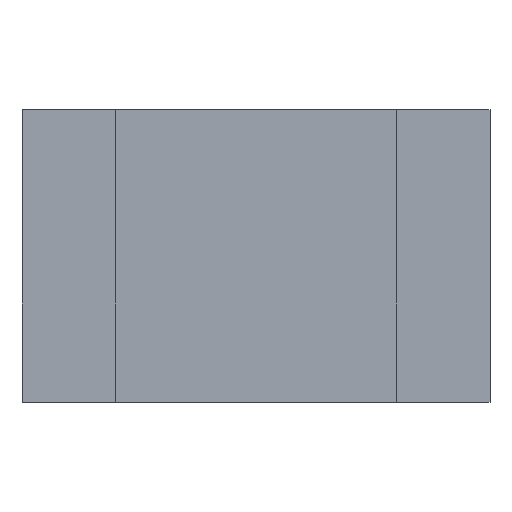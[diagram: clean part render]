
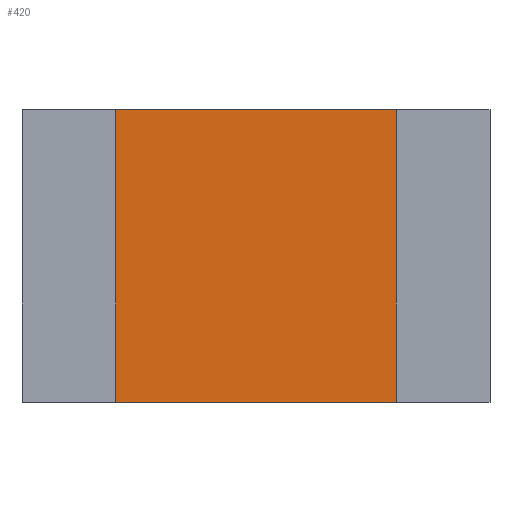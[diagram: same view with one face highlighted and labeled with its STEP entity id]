
A CAD part, top view. The second image highlights one B-rep face of the part: STEP entity #420.
In plain terms, the highlighted planar face has unit normal (0, 0, 1).
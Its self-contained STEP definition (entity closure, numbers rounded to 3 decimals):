
#420=ADVANCED_FACE('',(#817),#819,.F.);
#817=FACE_BOUND('',#818,.T.);
#818=EDGE_LOOP('',(#1101,#1102,#1103,#1104));
#819=PLANE('',#820);
#820=AXIS2_PLACEMENT_3D('',#821,#822,#823);
#821=CARTESIAN_POINT('',(0.,0.,0.35));
#822=DIRECTION('',(0.,0.,-1.));
#823=DIRECTION('',(1.,0.,0.));
#1101=ORIENTED_EDGE('',*,*,#1277,.F.);
#1102=ORIENTED_EDGE('',*,*,#1274,.F.);
#1103=ORIENTED_EDGE('',*,*,#1271,.F.);
#1104=ORIENTED_EDGE('',*,*,#1267,.F.);
#1267=EDGE_CURVE('',#1430,#1431,#1432,.T.);
#1271=EDGE_CURVE('',#1431,#1438,#1439,.T.);
#1274=EDGE_CURVE('',#1438,#1443,#1444,.T.);
#1277=EDGE_CURVE('',#1443,#1430,#1448,.T.);
#1430=VERTEX_POINT('',#1755);
#1431=VERTEX_POINT('',#1756);
#1432=LINE('',#1757,#1758);
#1438=VERTEX_POINT('',#1771);
#1439=LINE('',#1772,#1773);
#1443=VERTEX_POINT('',#1782);
#1444=LINE('',#1783,#1784);
#1448=LINE('',#1793,#1794);
#1755=CARTESIAN_POINT('',(-0.6,0.625,0.35));
#1756=CARTESIAN_POINT('',(0.6,0.625,0.35));
#1757=CARTESIAN_POINT('',(-0.6,0.625,0.35));
#1758=VECTOR('',#1759,1.);
#1759=DIRECTION('',(1.,0.,0.));
#1771=CARTESIAN_POINT('',(0.6,-0.625,0.35));
#1772=CARTESIAN_POINT('',(0.6,0.625,0.35));
#1773=VECTOR('',#1774,1.);
#1774=DIRECTION('',(0.,-1.,0.));
#1782=CARTESIAN_POINT('',(-0.6,-0.625,0.35));
#1783=CARTESIAN_POINT('',(0.6,-0.625,0.35));
#1784=VECTOR('',#1785,1.);
#1785=DIRECTION('',(-1.,0.,0.));
#1793=CARTESIAN_POINT('',(-0.6,-0.625,0.35));
#1794=VECTOR('',#1795,1.);
#1795=DIRECTION('',(0.,1.,0.));
